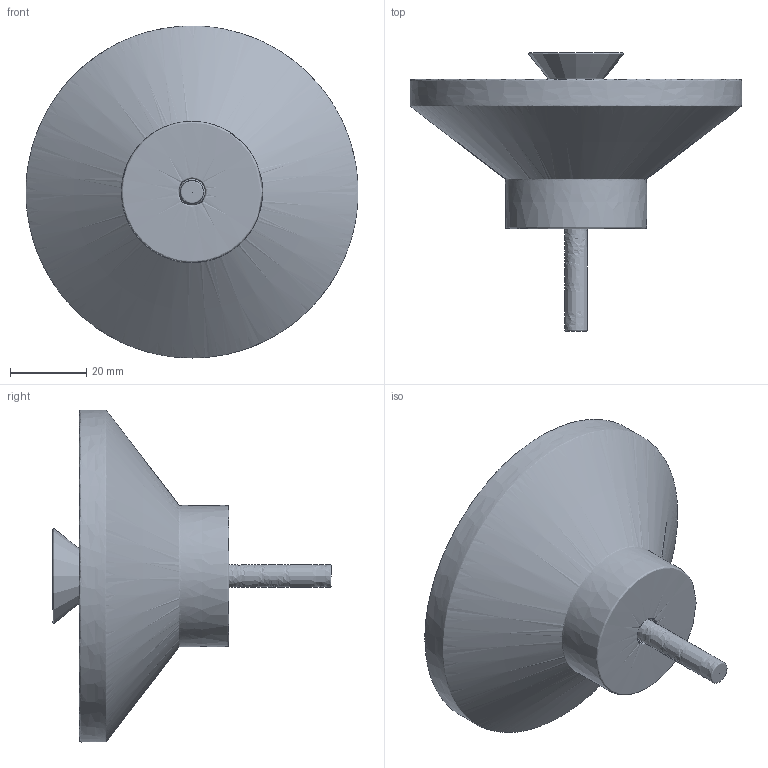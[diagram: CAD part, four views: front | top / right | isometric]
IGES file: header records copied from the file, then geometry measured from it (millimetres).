
Global section: file name: C:\Users\Stian\Documents\MILLION\Product Development\3D BANK\MILLION_CPH_CORONA HOOK\MILLION_CPH_CORONA_HOOK.igs; native system: Rhinoceros ( Jun  9 2014 ); preprocessor: Trout Lake IGES 012 Jun  9 2014; date: 160906.092538; units: millimetre
Bounding box: 87 x 72.91 x 87 mm (x, y, z)
Surface area: 22445 mm2 (no closed solid volume)
Topology: 0 solids, 0 shells, 3 faces, 8 edges, 5 vertices
Faces by surface type: bspline 3
